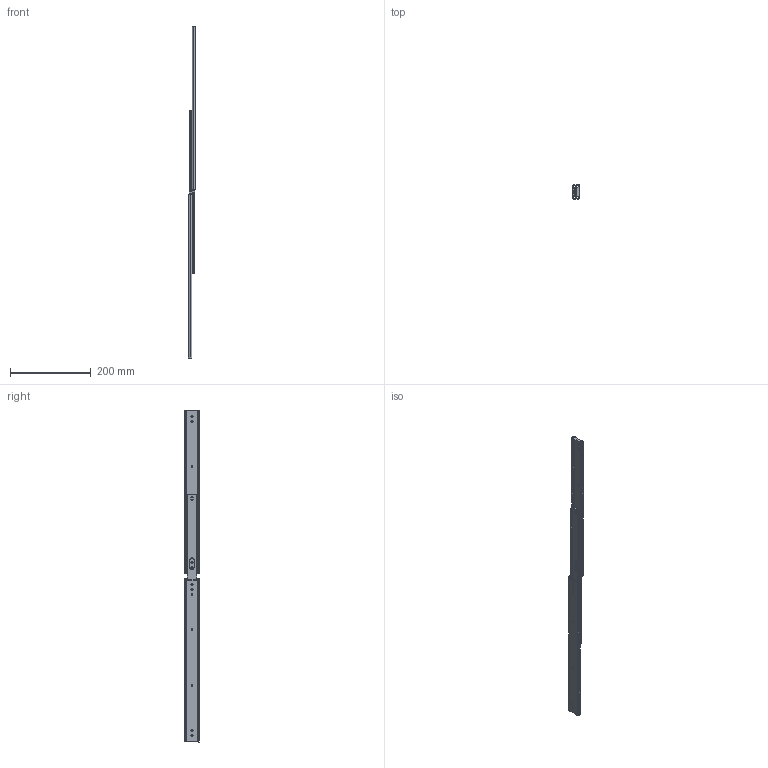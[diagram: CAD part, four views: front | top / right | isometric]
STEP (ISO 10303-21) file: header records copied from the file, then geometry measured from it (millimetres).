
FILE_DESCRIPTION (( 'STEP AP214' ), '1' );
FILE_NAME ('3560-400-open.STEP', '2024-08-20T06:01:13', ( '' ), ( '' ), 'SwSTEP 2.0', 'SolidWorks 2024', '' );
FILE_SCHEMA (( 'AUTOMOTIVE_DESIGN' ));
Length unit declared in the file: millimetre
Products named in the file (4): CAD_3560-400_TelescopicRailLight_Rollco.stp_Assem5; 3560-400-open; 26065P1-16''''.stp_Part9; 26065P3-16''''.stp_Part10
Assembly tree (5 placements, depth 3):
  3560-400-open
    CAD_3560-400_TelescopicRailLight_Rollco.stp_Assem5
      26065P1-16''''.stp_Part9  x2
      26065P3-16''''.stp_Part10  x2
Bounding box: 19.6 x 35.27 x 822.8 mm (x, y, z)
Surface area: 133457.9 mm2 (no closed solid volume)
Topology: 0 solids, 4 shells, 298 faces, 858 edges, 568 vertices
Faces by surface type: cylinder 158, plane 140
Entity records: 6297 total; most frequent: CARTESIAN_POINT 3073, ORIENTED_EDGE 858, EDGE_CURVE 429, B_SPLINE_CURVE_WITH_KNOTS 416, DIRECTION 329, VERTEX_POINT 284, EDGE_LOOP 171, AXIS2_PLACEMENT_3D 158
